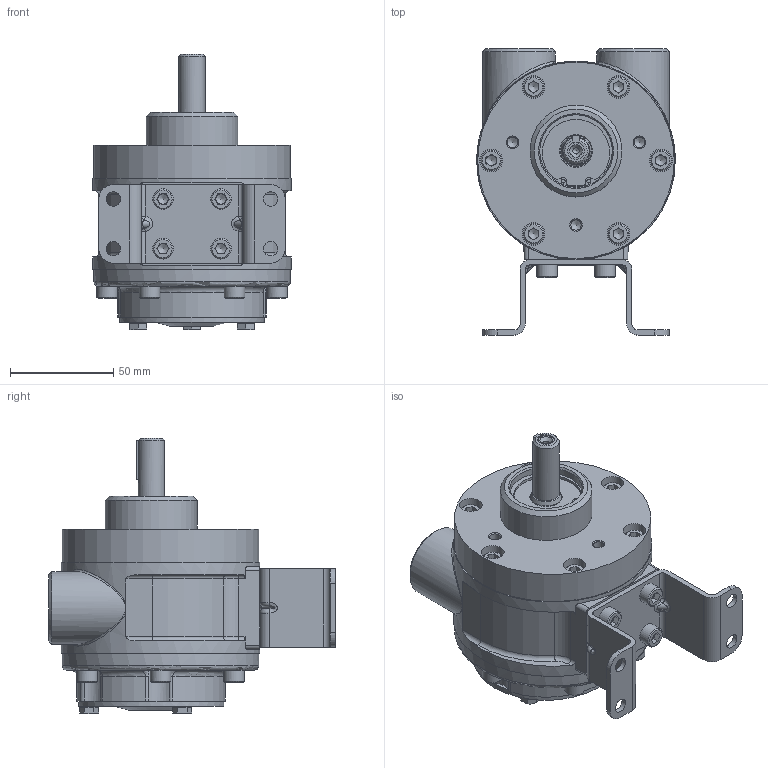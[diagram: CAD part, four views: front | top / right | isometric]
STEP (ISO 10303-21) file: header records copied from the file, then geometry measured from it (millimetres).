
FILE_DESCRIPTION (( 'STEP AP214' ), '1' );
FILE_NAME ('VA4J Defeature.STEP', '2022-06-14T07:39:55', ( '' ), ( '' ), 'SwSTEP 2.0', 'SolidWorks 2020', '' );
FILE_SCHEMA (( 'AUTOMOTIVE_DESIGN' ));
Length unit declared in the file: millimetre
Products named in the file (1): VA4J Defeature
Bounding box: 96 x 138.4 x 133.2 mm (x, y, z)
Volume: 605553.6 mm3; surface area: 67073 mm2
Topology: 1 solids, 1 shells, 597 faces, 1442 edges, 864 vertices
Faces by surface type: plane 332, cylinder 129, cone 71, bspline 36, torus 21, sphere 8
Full cylindrical faces by diameter (mm): 1.9 x2, 3 x1, 5.105 x3, 7 x4, 8 x4, 10 x16, 11 x6, 12.7 x1, 15 x1, 15.3 x1, 17.1 x1, 18.631 x2, 34 x1, 35 x4, 37 x1, 44.4 x1, 70 x1, 95 x2, 96 x2
Entity records: 22743 total; most frequent: CARTESIAN_POINT 7735, DIRECTION 2701, ORIENTED_EDGE 2492, EDGE_CURVE 1246, AXIS2_PLACEMENT_3D 1032, VERTEX_POINT 795, EDGE_LOOP 753, FACE_OUTER_BOUND 654
